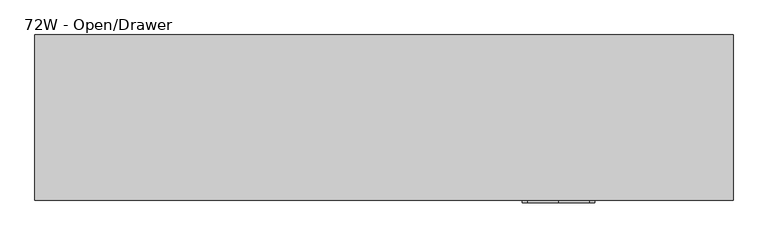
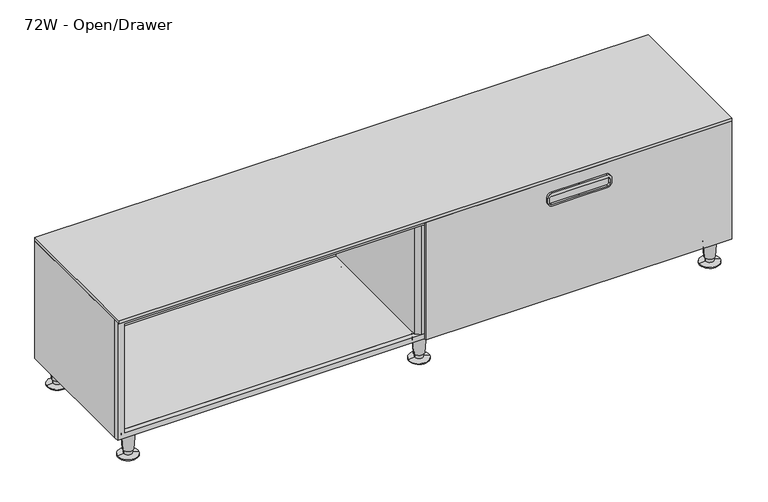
"""IFC4 building model written with IfcOpenShell, lengths in millimetres: furniture geometry, Steelcase - C Scape - Low Storage - 1 High - 60W and 72W : 72W - Open/Drawer."""

import ifcopenshell
import ifcopenshell.guid

model = None  # the IFC model being written
_history = None  # IfcOwnerHistory: only IFC2X3 demands one
_inside = {}  # id of a spatial element -> (the spatial element, [elements in it])
_under = {}  # id of a project, library or spatial element -> (it, [spatial elements below it])
_declared = {}  # id of a project -> (the project, [libraries it declares])
_typed = {}  # id of a type object -> (the type object, [elements of that type])
_made_of = {}  # id of a material, layer set ... -> (it, [elements and type objects made of it])


def new_model(schema):
    """Start an empty IFC model of exactly this schema.

    Asked for "IFC4X3", IfcOpenShell would pick the latest addendum, in which some entities
    have other attributes; the version numbers below select the first issue.
    IFC2X3 requires an IfcOwnerHistory on every rooted entity: one is made here for all.
    """
    global model, _history
    if schema == "IFC4X3":
        model = ifcopenshell.file(schema_version=(4, 3, 0, 0))
    else:
        model = ifcopenshell.file(schema=schema)
    _inside.clear()
    _under.clear()
    _declared.clear()
    _typed.clear()
    _made_of.clear()
    _history = None
    if model.schema == "IFC2X3":
        org = make("IfcOrganization", Name="unknown")
        user = make(
            "IfcPersonAndOrganization",
            ThePerson=make("IfcPerson", FamilyName="unknown"),
            TheOrganization=org,
        )
        app = make(
            "IfcApplication",
            ApplicationDeveloper=org,
            Version="unknown",
            ApplicationFullName="unknown",
            ApplicationIdentifier="unknown",
        )
        _history = make(
            "IfcOwnerHistory",
            OwningUser=user,
            OwningApplication=app,
            ChangeAction="ADDED",
            CreationDate=0,
        )
    return model


def make(cls, **values):
    """One entity of the class cls with the attributes given. An attribute that is None is left unset."""
    return model.create_entity(
        cls, **{name: value for name, value in values.items() if value is not None}
    )


def rooted(cls, **values):
    """An entity with a GlobalId (a new one), such as an element, a storey or a relation."""
    return make(cls, GlobalId=ifcopenshell.guid.new(), OwnerHistory=_history, **values)


def si_unit(unit_type, name, prefix=None):
    """IfcSIUnit, for example si_unit("LENGTHUNIT", "METRE", prefix="MILLI")."""
    return make("IfcSIUnit", UnitType=unit_type, Prefix=prefix, Name=name)


def assignment(units):
    """IfcUnitAssignment: the units of a project."""
    return None if units is None else make("IfcUnitAssignment", Units=units)


def point(xyz):
    """IfcCartesianPoint."""
    return None if xyz is None else make("IfcCartesianPoint", Coordinates=xyz)


def direction(xyz):
    """IfcDirection."""
    return None if xyz is None else make("IfcDirection", DirectionRatios=xyz)


def frame(location, z_axis=None, x_axis=None):
    """IfcAxis2Placement3D, a coordinate frame: its origin and axes. An axis left out is left unset."""
    return make(
        "IfcAxis2Placement3D",
        Location=point(location),
        Axis=direction(z_axis),
        RefDirection=direction(x_axis),
    )


def frame_2d(location, x_axis=None):
    """IfcAxis2Placement2D, a coordinate frame in the plane: its origin and x axis."""
    return make(
        "IfcAxis2Placement2D", Location=point(location), RefDirection=direction(x_axis)
    )


def origin():
    """The frame at (0, 0, 0) with its axes left unset."""
    return frame((0.0, 0.0, 0.0))


def place(relative_to, where):
    """IfcLocalPlacement: puts the frame where relative to a parent placement (None: the world)."""
    return make(
        "IfcLocalPlacement", PlacementRelTo=relative_to, RelativePlacement=where
    )


def context(
    kind, dimensions, precision=None, world=None, true_north=None, identifier=None
):
    """IfcGeometricRepresentationContext, for example the 3D "Model" context."""
    return make(
        "IfcGeometricRepresentationContext",
        ContextIdentifier=identifier,
        ContextType=kind,
        CoordinateSpaceDimension=dimensions,
        Precision=precision,
        WorldCoordinateSystem=world,
        TrueNorth=true_north,
    )


def project(units=None, contexts=None):
    """IfcProject with its units and contexts."""
    return rooted(
        "IfcProject",
        Name="project",
        RepresentationContexts=contexts,
        UnitsInContext=assignment(units),
    )


def spatial(cls, under=None, at=None, **own):
    """A site, building, storey or space (cls), placed at a placement, below another one or the project."""
    s = rooted(cls, ObjectPlacement=at, **own)
    if under is not None:
        _under.setdefault(under.id(), (under, []))[1].append(s)
    return s


def polyline(points):
    """IfcPolyline through the points."""
    return make("IfcPolyline", Points=[point(p) for p in points])


def circle_curve(where, radius):
    """IfcCircle in the frame where."""
    return make("IfcCircle", Position=where, Radius=radius)


def trimmed(basis, trim1, trim2, sense, master):
    """IfcTrimmedCurve: the piece of a basis curve between two trims."""
    return make(
        "IfcTrimmedCurve",
        BasisCurve=basis,
        Trim1=trim1,
        Trim2=trim2,
        SenseAgreement=sense,
        MasterRepresentation=master,
    )


def segment(curve, same_sense, transition):
    """IfcCompositeCurveSegment."""
    return make(
        "IfcCompositeCurveSegment",
        Transition=transition,
        SameSense=same_sense,
        ParentCurve=curve,
    )


def composite_curve(segments, self_intersect=None):
    """IfcCompositeCurve: segments joined end to end."""
    return make("IfcCompositeCurve", Segments=segments, SelfIntersect=self_intersect)


def outline(outer, holes=None, kind="AREA"):
    """IfcArbitraryClosedProfileDef: a profile drawn as a closed curve; with holes, ...WithVoids."""
    if holes is None:
        return make("IfcArbitraryClosedProfileDef", ProfileType=kind, OuterCurve=outer)
    return make(
        "IfcArbitraryProfileDefWithVoids",
        ProfileType=kind,
        OuterCurve=outer,
        InnerCurves=holes,
    )


def extrude(swept, where, along, depth):
    """IfcExtrudedAreaSolid: the profile swept, set in the frame where, extruded along a direction by depth."""
    return make(
        "IfcExtrudedAreaSolid",
        SweptArea=swept,
        Position=where,
        ExtrudedDirection=direction(along),
        Depth=depth,
    )


def faces_of(points, faces, orient=None, outer=None):
    """IfcFace entities. A face is a list of loops; a loop is a list of indices into points, from 0.

    orient and outer hold one flag for each loop. By default every Orientation is true, the
    first loop of a face is its IfcFaceOuterBound and the others are IfcFaceBound.
    """
    made = []
    for i, loops in enumerate(faces):
        bounds = []
        for j, loop in enumerate(loops):
            is_outer = j == 0 if outer is None else outer[i][j]
            bounds.append(
                make(
                    "IfcFaceOuterBound" if is_outer else "IfcFaceBound",
                    Bound=make("IfcPolyLoop", Polygon=[points[k] for k in loop]),
                    Orientation=True if orient is None else orient[i][j],
                )
            )
        made.append(make("IfcFace", Bounds=bounds))
    return made


def faceted_brep(points, faces, orient=None, outer=None, voids=None):
    """IfcFacetedBrep: a solid bounded by flat faces; with voids (closed shells), ...WithVoids."""
    shared = [point(p) for p in points]
    hull = make("IfcClosedShell", CfsFaces=faces_of(shared, faces, orient, outer))
    if voids is None:
        return make("IfcFacetedBrep", Outer=hull)
    return make(
        "IfcFacetedBrepWithVoids",
        Outer=hull,
        Voids=[
            make(cls, CfsFaces=faces_of(shared, fs, o, b)) for cls, fs, o, b in voids
        ],
    )


def shape(context_of_items, identifier, shape_type, items):
    """IfcShapeRepresentation: the items that make up one representation, for example the "Body"."""
    return make(
        "IfcShapeRepresentation",
        ContextOfItems=context_of_items,
        RepresentationIdentifier=identifier,
        RepresentationType=shape_type,
        Items=items,
    )


def source(mapping_origin, context_of_items, identifier, shape_type, items):
    """IfcRepresentationMap: a shape defined once, which mapped items show again and again."""
    return make(
        "IfcRepresentationMap",
        MappingOrigin=mapping_origin,
        MappedRepresentation=shape(context_of_items, identifier, shape_type, items),
    )


def transform(
    local_origin,
    x_axis=None,
    y_axis=None,
    z_axis=None,
    scale=None,
    scale2=None,
    scale3=None,
    uniform=True,
):
    """IfcCartesianTransformationOperator3D, or its non-uniform kind. x_axis, y_axis, z_axis: its Axis1, 2, 3."""
    if uniform:
        return make(
            "IfcCartesianTransformationOperator3D",
            Axis1=direction(x_axis),
            Axis2=direction(y_axis),
            LocalOrigin=point(local_origin),
            Scale=scale,
            Axis3=direction(z_axis),
        )
    return make(
        "IfcCartesianTransformationOperator3DnonUniform",
        Axis1=direction(x_axis),
        Axis2=direction(y_axis),
        LocalOrigin=point(local_origin),
        Scale=scale,
        Axis3=direction(z_axis),
        Scale2=scale2,
        Scale3=scale3,
    )


def mapped(mapping_source, mapping_target):
    """IfcMappedItem: shows the shape of a source again, moved by a transform."""
    return make(
        "IfcMappedItem", MappingSource=mapping_source, MappingTarget=mapping_target
    )


def made_of(thing, what):
    """Note that an element or type object is made of a material, layer set ...; save() writes the relation."""
    if what is not None:
        _made_of.setdefault(what.id(), (what, []))[1].append(thing)
    return thing


def element(
    cls,
    number,
    at=None,
    inside=None,
    cuts=None,
    type_object=None,
    material=None,
    context=None,
    identifier="Body",
    shape_type=None,
    held_by="IfcProductDefinitionShape",
    body=None,
    shapes=None,
    **own,
):
    """One element of the class cls, such as IfcWall. Its Tag is "e" and its number.

    at: its placement. inside: the storey or other place that contains it. cuts: it is an
    opening in that element (IfcRelVoidsElement). A single representation is given by context,
    identifier, shape_type and body (its items); several are given by shapes. held_by: the class
    of the entity that holds the representations. save() writes the other relations.
    """
    e = rooted(cls, Tag="e%d" % number, ObjectPlacement=at, **own)
    if body is not None:
        shapes = [shape(context, identifier, shape_type, body)]
    if shapes is not None:
        e.Representation = make(held_by, Representations=shapes)
    if inside is not None:
        _inside.setdefault(inside.id(), (inside, []))[1].append(e)
    if cuts is not None:
        rooted(
            "IfcRelVoidsElement", RelatingBuildingElement=cuts, RelatedOpeningElement=e
        )
    if type_object is not None:
        _typed.setdefault(type_object.id(), (type_object, []))[1].append(e)
    return made_of(e, material)


def aggregate(whole, parts):
    """IfcRelAggregates: a whole, such as a stair, and the parts it consists of."""
    return rooted("IfcRelAggregates", RelatingObject=whole, RelatedObjects=parts)


def save(model, path):
    """Write the relations noted so far, then the file.

    IfcRelAggregates (storeys below a building ...), IfcRelContainedInSpatialStructure (elements
    in a storey), IfcRelDefinesByType, IfcRelAssociatesMaterial and IfcRelDeclares: one each for
    every whole, place, type object, material and project.
    """
    for whole, parts in _under.values():
        aggregate(whole, parts)
    for where, things in _inside.values():
        rooted(
            "IfcRelContainedInSpatialStructure",
            RelatedElements=things,
            RelatingStructure=where,
        )
    for kind, things in _typed.values():
        rooted("IfcRelDefinesByType", RelatedObjects=things, RelatingType=kind)
    for what, things in _made_of.values():
        rooted("IfcRelAssociatesMaterial", RelatedObjects=things, RelatingMaterial=what)
    for by, libraries in _declared.values():
        rooted("IfcRelDeclares", RelatingContext=by, RelatedDefinitions=libraries)
    model.write(path)


def plane_surface(at):
    """IfcPlane: the flat surface through the origin of the frame at, square to its z axis."""
    return make("IfcPlane", Position=at)


def cylinder_surface(at, radius):
    """IfcCylindricalSurface: all points at the distance radius from the z axis of the frame at."""
    return make("IfcCylindricalSurface", Position=at, Radius=radius)


def revolved_surface(curve, axis_point, axis_direction):
    """IfcSurfaceOfRevolution: the curve turned about the line through axis_point along axis_direction."""
    return make(
        "IfcSurfaceOfRevolution",
        SweptCurve=make("IfcArbitraryOpenProfileDef", ProfileType="CURVE", Curve=curve),
        AxisPosition=make("IfcAxis1Placement", Location=point(axis_point), Axis=direction(axis_direction)),
    )


def advanced_brep(points, edges, surfaces, faces):
    """IfcAdvancedBrep: a solid bounded by faces that lie on surfaces and meet in shared edges.

    An edge is (start, end): straight between two places in points (the first is 0);
    or (start, end, curve); or (start, end, curve, False) where it runs against its curve.
    A face is (place in surfaces, loops), or (place, loops, False) where it looks against
    its surface's normal. A loop lists edges by number (the first is 1), with a minus sign
    where the edge is run from its end to its start. The first loop is the outer one.
    """
    corners = [point(p) for p in points]
    vertices = [make("IfcVertexPoint", VertexGeometry=c) for c in corners]
    made = []
    for start, end, *more in edges:
        made.append(
            make(
                "IfcEdgeCurve",
                EdgeStart=vertices[start],
                EdgeEnd=vertices[end],
                EdgeGeometry=more[0] if more else make("IfcPolyline", Points=[corners[start], corners[end]]),
                SameSense=more[1] if len(more) > 1 else True,
            )
        )
    hull = []
    for where, loops, *sense in faces:
        bounds = []
        for j, loop in enumerate(loops):
            ring = [make("IfcOrientedEdge", EdgeElement=made[abs(k) - 1], Orientation=k > 0) for k in loop]
            bounds.append(
                make(
                    "IfcFaceOuterBound" if j == 0 else "IfcFaceBound",
                    Bound=make("IfcEdgeLoop", EdgeList=ring),
                    Orientation=True,
                )
            )
        hull.append(make("IfcAdvancedFace", Bounds=bounds, FaceSurface=surfaces[where], SameSense=sense[0] if sense else True))
    return make("IfcAdvancedBrep", Outer=make("IfcClosedShell", CfsFaces=hull))


def furniture_72w_open_drawer_b8831ac9(model_context):
    return source(origin(), model_context, "Body", "SolidModel", [
        extrude(outline(polyline([(447.0400097, 1522.73), (447.0400097, -305.435), (76.2, -305.435), (76.2, 1522.73), (447.0400097, 1522.73)]), holes=[polyline([(436.118, 1501.3917676), (92.7100024, 1501.3917676), (92.7100024, -283.4630912), (436.118, -283.4630912), (436.118, 1501.3917676)])]), frame((0.0, -426.7186111, 0.0), z_axis=(0.0, 1.0, 0.0), x_axis=(0.0, 0.0, 1.0)), (0.0, 0.0, 1.0), 14.3975487),
        faceted_brep([(-283.4630912, -412.3210624, 92.7100024), (586.4224874, -412.3210624, 92.7100024), (586.4224874, -9.525, 92.7100024), (-283.4630912, -9.525, 92.7100024), (631.5075126, -412.3210624, 92.7100024), (1501.3917676, -412.3210624, 92.7100024), (1501.3917676, -9.525, 92.7100024), (631.5075126, -9.525, 92.7100024), (-305.435, 0.0, 76.2), (1523.365, 0.0, 76.2), (1523.365, -412.3210624, 76.2), (-305.435, -412.3210624, 76.2), (-305.435, -412.3210624, 447.0400097), (-305.435, 0.0, 447.0400097), (1523.365, -412.3210624, 447.0400097), (1501.3917676, -412.3210624, 447.0400097), (-283.4630912, -412.3210624, 447.0400097), (1523.365, 0.0, 447.0400097), (-283.4630912, -9.525, 447.0400097), (586.4224874, -9.525, 447.0400097), (586.4224874, -415.2912402, 447.0400097), (600.0410976, -426.7186111, 447.0400097), (617.8889024, -426.7186111, 447.0400097), (631.5075126, -415.2912402, 447.0400097), (631.5075126, -9.525, 447.0400097), (1501.3917676, -9.525, 447.0400097), (586.4224874, -415.2912402, 92.7100024), (600.0410976, -426.7186111, 92.7100024), (617.8889024, -426.7186111, 92.7100024), (631.5075126, -415.2912402, 92.7100024)], [[[0, 1, 2, 3]], [[4, 5, 6, 7]], [[8, 9, 10, 11]], [[8, 11, 12, 13]], [[12, 11, 10, 14, 15, 5, 4, 1, 0, 16]], [[14, 10, 9, 17]], [[17, 9, 8, 13]], [[13, 12, 16, 18, 19, 20, 21, 22, 23, 24, 25, 15, 14, 17]], [[18, 16, 0, 3]], [[19, 18, 3, 2]], [[20, 19, 2, 1, 26]], [[21, 20, 26, 27]], [[23, 22, 28, 29]], [[24, 23, 29, 4, 7]], [[25, 24, 7, 6]], [[15, 25, 6, 5]], [[29, 28, 27, 26, 1, 4]], [[22, 21, 27, 28]]]),
        advanced_brep(
        [(579.8539515, -29.9489775, 0.0), (638.0760485, -38.8569507, 0.0), (608.965, -34.4029641, 0.0), (579.8539515, -29.9489775, 2.5119506), (638.0760485, -38.8569507, 2.5119506), (597.202835, -32.6033544, 5.7545598), (620.727165, -36.2025738, 5.7545598), (596.5140655, -32.4979728, 19.05), (621.4159345, -36.3079555, 19.05), (594.0844786, -32.1262463, 19.05), (623.8455214, -36.6796819, 19.05), (590.1341305, -31.5218435, 76.2), (627.7958695, -37.2840847, 76.2), (608.965, -34.4029641, 76.2)],
        [
            (0, 1, circle_curve(frame((608.965, -34.4029641, 0.0), z_axis=(0.0, 0.0, -1.0), x_axis=(0.0, -1.0, 0.0)), 29.4498071)),
            (1, 2),
            (2, 0),
            (1, 0, circle_curve(frame((608.965, -34.4029641, 0.0), z_axis=(0.0, 0.0, -1.0), x_axis=(0.0, -1.0, 0.0)), 29.4498071)),
            (3, 4, circle_curve(frame((608.965, -34.4029641, 2.5119506), z_axis=(0.0, 0.0, -1.0), x_axis=(0.0, -1.0, 0.0)), 29.4498071)),
            (4, 1),
            (0, 3),
            (4, 3, circle_curve(frame((608.965, -34.4029641, 2.5119506), z_axis=(0.0, 0.0, -1.0), x_axis=(0.0, -1.0, 0.0)), 29.4498071)),
            (5, 6, circle_curve(frame((608.965, -34.4029641, 5.7545598), z_axis=(0.0, 0.0, -1.0), x_axis=(0.0, -1.0, 0.0)), 11.8990387)),
            (6, 4),
            (3, 5),
            (6, 5, circle_curve(frame((608.965, -34.4029641, 5.7545598), z_axis=(0.0, 0.0, -1.0), x_axis=(0.0, -1.0, 0.0)), 11.8990387)),
            (7, 8, circle_curve(frame((608.965, -34.4029641, 19.05), z_axis=(0.0, 0.0, -1.0), x_axis=(0.0, -1.0, 0.0)), 12.5958232)),
            (8, 6),
            (5, 7),
            (8, 7, circle_curve(frame((608.965, -34.4029641, 19.05), z_axis=(0.0, 0.0, -1.0), x_axis=(0.0, -1.0, 0.0)), 12.5958232)),
            (9, 10, circle_curve(frame((608.965, -34.4029641, 19.05), z_axis=(0.0, 0.0, -1.0), x_axis=(0.0, -1.0, 0.0)), 15.0536827)),
            (10, 8),
            (7, 9),
            (10, 9, circle_curve(frame((608.965, -34.4029641, 19.05), z_axis=(0.0, 0.0, -1.0), x_axis=(0.0, -1.0, 0.0)), 15.0536827)),
            (11, 12, circle_curve(frame((608.965, -34.4029641, 76.2), z_axis=(0.0, 0.0, -1.0), x_axis=(0.0, -1.0, 0.0)), 19.05)),
            (12, 10),
            (9, 11),
            (12, 11, circle_curve(frame((608.965, -34.4029641, 76.2), z_axis=(0.0, 0.0, -1.0), x_axis=(0.0, -1.0, 0.0)), 19.05)),
            (13, 12),
            (11, 13),
        ],
        [
            plane_surface(frame((608.965, -34.4029641, 0.0), z_axis=(0.0, 0.0, -1.0), x_axis=(0.0, -1.0, 0.0))),
            cylinder_surface(frame((608.965, -34.4029641, 25.4), z_axis=(0.0, 0.0, 1.0), x_axis=(0.0, -1.0, 0.0)), 29.4498071),
            revolved_surface(polyline([(608.965, -63.8527712, 2.5119506), (608.965, -46.3020028, 5.7545598)]), (608.965, -34.4029641, 25.4), (0.0, 0.0, 1.0)),
            revolved_surface(polyline([(608.965, -46.3020028, 5.7545598), (608.965, -46.9987873, 19.05)]), (608.965, -34.4029641, 25.4), (0.0, 0.0, 1.0)),
            plane_surface(frame((608.965, -34.4029641, 19.05), z_axis=(0.0, 0.0, -1.0), x_axis=(0.0, -1.0, 0.0))),
            revolved_surface(polyline([(608.965, -49.4566468, 19.05), (608.965, -53.4529641, 76.2)]), (608.965, -34.4029641, 25.4), (0.0, 0.0, 1.0)),
            plane_surface(frame((608.965, -34.4029641, 76.2), z_axis=(0.0, 0.0, 1.0), x_axis=(0.0, -1.0, 0.0))),
        ],
        [
            (0, [[1, 2, 3]]),
            (0, [[4, -3, -2]]),
            (1, [[5, 6, -1, 7]]),
            (1, [[8, -7, -4, -6]]),
            (2, [[9, 10, -5, 11]]),
            (2, [[12, -11, -8, -10]]),
            (3, [[13, 14, -9, 15]]),
            (3, [[16, -15, -12, -14]]),
            (4, [[17, 18, -13, 19]]),
            (4, [[20, -19, -16, -18]]),
            (5, [[21, 22, -17, 23]]),
            (5, [[24, -23, -20, -22]]),
            (6, [[25, -21, 26]]),
            (6, [[-26, -24, -25]]),
        ],
    ),
        advanced_brep(
        [(579.8539515, -395.5974102, 0.0), (638.0760485, -404.5053834, 0.0), (608.965, -400.0513968, 0.0), (579.8539515, -395.5974102, 2.5119506), (638.0760485, -404.5053834, 2.5119506), (597.202835, -398.2517871, 5.7545598), (620.727165, -401.8510065, 5.7545598), (596.5140655, -398.1464055, 19.05), (621.4159345, -401.9563882, 19.05), (594.0844786, -397.774679, 19.05), (623.8455214, -402.3281146, 19.05), (590.1341305, -397.1702762, 76.2), (627.7958695, -402.9325174, 76.2), (608.965, -400.0513968, 76.2)],
        [
            (0, 1, circle_curve(frame((608.965, -400.0513968, 0.0), z_axis=(0.0, 0.0, -1.0), x_axis=(0.0, -1.0, 0.0)), 29.4498071)),
            (1, 2),
            (2, 0),
            (1, 0, circle_curve(frame((608.965, -400.0513968, 0.0), z_axis=(0.0, 0.0, -1.0), x_axis=(0.0, -1.0, 0.0)), 29.4498071)),
            (3, 4, circle_curve(frame((608.965, -400.0513968, 2.5119506), z_axis=(0.0, 0.0, -1.0), x_axis=(0.0, -1.0, 0.0)), 29.4498071)),
            (4, 1),
            (0, 3),
            (4, 3, circle_curve(frame((608.965, -400.0513968, 2.5119506), z_axis=(0.0, 0.0, -1.0), x_axis=(0.0, -1.0, 0.0)), 29.4498071)),
            (5, 6, circle_curve(frame((608.965, -400.0513968, 5.7545598), z_axis=(0.0, 0.0, -1.0), x_axis=(0.0, -1.0, 0.0)), 11.8990387)),
            (6, 4),
            (3, 5),
            (6, 5, circle_curve(frame((608.965, -400.0513968, 5.7545598), z_axis=(0.0, 0.0, -1.0), x_axis=(0.0, -1.0, 0.0)), 11.8990387)),
            (7, 8, circle_curve(frame((608.965, -400.0513968, 19.05), z_axis=(0.0, 0.0, -1.0), x_axis=(0.0, -1.0, 0.0)), 12.5958232)),
            (8, 6),
            (5, 7),
            (8, 7, circle_curve(frame((608.965, -400.0513968, 19.05), z_axis=(0.0, 0.0, -1.0), x_axis=(0.0, -1.0, 0.0)), 12.5958232)),
            (9, 10, circle_curve(frame((608.965, -400.0513968, 19.05), z_axis=(0.0, 0.0, -1.0), x_axis=(0.0, -1.0, 0.0)), 15.0536827)),
            (10, 8),
            (7, 9),
            (10, 9, circle_curve(frame((608.965, -400.0513968, 19.05), z_axis=(0.0, 0.0, -1.0), x_axis=(0.0, -1.0, 0.0)), 15.0536827)),
            (11, 12, circle_curve(frame((608.965, -400.0513968, 76.2), z_axis=(0.0, 0.0, -1.0), x_axis=(0.0, -1.0, 0.0)), 19.05)),
            (12, 10),
            (9, 11),
            (12, 11, circle_curve(frame((608.965, -400.0513968, 76.2), z_axis=(0.0, 0.0, -1.0), x_axis=(0.0, -1.0, 0.0)), 19.05)),
            (13, 12),
            (11, 13),
        ],
        [
            plane_surface(frame((608.965, -400.0513968, 0.0), z_axis=(0.0, 0.0, -1.0), x_axis=(0.0, -1.0, 0.0))),
            cylinder_surface(frame((608.965, -400.0513968, 25.4), z_axis=(0.0, 0.0, 1.0), x_axis=(0.0, -1.0, 0.0)), 29.4498071),
            revolved_surface(polyline([(608.965, -429.5012039, 2.5119506), (608.965, -411.9504355, 5.7545598)]), (608.965, -400.0513968, 25.4), (0.0, 0.0, 1.0)),
            revolved_surface(polyline([(608.965, -411.9504355, 5.7545598), (608.965, -412.64722, 19.05)]), (608.965, -400.0513968, 25.4), (0.0, 0.0, 1.0)),
            plane_surface(frame((608.965, -400.0513968, 19.05), z_axis=(0.0, 0.0, -1.0), x_axis=(0.0, -1.0, 0.0))),
            revolved_surface(polyline([(608.965, -415.1050795, 19.05), (608.965, -419.1013968, 76.2)]), (608.965, -400.0513968, 25.4), (0.0, 0.0, 1.0)),
            plane_surface(frame((608.965, -400.0513968, 76.2), z_axis=(0.0, 0.0, 1.0), x_axis=(0.0, -1.0, 0.0))),
        ],
        [
            (0, [[1, 2, 3]]),
            (0, [[4, -3, -2]]),
            (1, [[5, 6, -1, 7]]),
            (1, [[8, -7, -4, -6]]),
            (2, [[9, 10, -5, 11]]),
            (2, [[12, -11, -8, -10]]),
            (3, [[13, 14, -9, 15]]),
            (3, [[16, -15, -12, -14]]),
            (4, [[17, 18, -13, 19]]),
            (4, [[20, -19, -16, -18]]),
            (5, [[21, 22, -17, 23]]),
            (5, [[24, -23, -20, -22]]),
            (6, [[25, -21, 26]]),
            (6, [[-26, -24, -25]]),
        ],
    ),
        extrude(outline(composite_curve([segment(trimmed(circle_curve(frame_2d((400.0499879, 983.9320892)), 12.7), [point((412.7499879, 983.9320892))], [point((400.0499879, 971.2320892))], False, "CARTESIAN"), True, "CONTINUOUS"), segment(polyline([(400.0499879, 971.2320892), (385.445017, 971.2320892)]), True, "CONTINUOUS"), segment(trimmed(circle_curve(frame_2d((385.445017, 983.9320892)), 12.7), [point((385.445017, 971.2320892))], [point((372.745017, 983.9320892))], False, "CARTESIAN"), True, "CONTINUOUS"), segment(polyline([(372.745017, 983.9320892), (372.745017, 1066.164845), (372.745017, 1148.3976007)]), True, "CONTINUOUS"), segment(trimmed(circle_curve(frame_2d((385.445017, 1148.3976007)), 12.7), [point((372.745017, 1148.3976007))], [point((385.445017, 1161.0976007))], False, "CARTESIAN"), True, "CONTINUOUS"), segment(polyline([(385.445017, 1161.0976007), (400.0499879, 1161.0976007)]), True, "CONTINUOUS"), segment(trimmed(circle_curve(frame_2d((400.0499879, 1148.3976007)), 12.7), [point((400.0499879, 1161.0976007))], [point((412.7499879, 1148.3976007))], False, "CARTESIAN"), True, "CONTINUOUS"), segment(polyline([(412.7499879, 1148.3976007), (412.7499879, 1066.164845), (412.7499879, 983.9320892)]), True, "CONTINUOUS")], self_intersect=False), holes=[composite_curve([segment(trimmed(circle_curve(frame_2d((396.6210063, 982.4097015)), 6.35), [point((396.6210063, 976.0597015))], [point((402.9710063, 982.4097015))], True, "CARTESIAN"), True, "CONTINUOUS"), segment(polyline([(402.9710063, 982.4097015), (402.9710063, 1066.164845), (402.9710063, 1149.9199884)]), True, "CONTINUOUS"), segment(trimmed(circle_curve(frame_2d((396.6210063, 1149.9199884)), 6.35), [point((402.9710063, 1149.9199884))], [point((396.6210063, 1156.2699884))], True, "CARTESIAN"), True, "CONTINUOUS"), segment(polyline([(396.6210063, 1156.2699884), (383.9209942, 1156.2699884)]), True, "CONTINUOUS"), segment(trimmed(circle_curve(frame_2d((383.9209942, 1149.9199884)), 6.35), [point((383.9209942, 1156.2699884))], [point((377.5709942, 1149.9199884))], True, "CARTESIAN"), True, "CONTINUOUS"), segment(polyline([(377.5709942, 1149.9199884), (377.5709942, 1066.164845), (377.5709942, 982.4097015)]), True, "CONTINUOUS"), segment(trimmed(circle_curve(frame_2d((383.9209942, 982.4097015)), 6.35), [point((377.5709942, 982.4097015))], [point((383.9209942, 976.0597015))], True, "CARTESIAN"), True, "CONTINUOUS"), segment(polyline([(383.9209942, 976.0597015), (396.6210063, 976.0597015)]), True, "CONTINUOUS")], self_intersect=False)]), frame((0.0, -439.42, 0.0), z_axis=(0.0, 1.0, 0.0), x_axis=(0.0, 0.0, 1.0)), (0.0, 0.0, 1.0), 6.35),
        advanced_brep(
        [(1446.9075389, -29.9489775, 0.0), (1505.1296359, -38.8569507, 0.0), (1476.0185874, -34.4029641, 0.0), (1446.9075389, -29.9489775, 2.5119506), (1505.1296359, -38.8569507, 2.5119506), (1464.2564224, -32.6033544, 5.7545598), (1487.7807524, -36.2025738, 5.7545598), (1463.5676529, -32.4979728, 19.05), (1488.4695219, -36.3079555, 19.05), (1461.1380659, -32.1262463, 19.05), (1490.8991088, -36.6796819, 19.05), (1457.1877179, -31.5218435, 76.2), (1494.8494568, -37.2840847, 76.2), (1476.0185874, -34.4029641, 76.2)],
        [
            (0, 1, circle_curve(frame((1476.0185874, -34.4029641, 0.0), z_axis=(0.0, 0.0, -1.0), x_axis=(0.0, -1.0, 0.0)), 29.4498071)),
            (1, 2),
            (2, 0),
            (1, 0, circle_curve(frame((1476.0185874, -34.4029641, 0.0), z_axis=(0.0, 0.0, -1.0), x_axis=(0.0, -1.0, 0.0)), 29.4498071)),
            (3, 4, circle_curve(frame((1476.0185874, -34.4029641, 2.5119506), z_axis=(0.0, 0.0, -1.0), x_axis=(0.0, -1.0, 0.0)), 29.4498071)),
            (4, 1),
            (0, 3),
            (4, 3, circle_curve(frame((1476.0185874, -34.4029641, 2.5119506), z_axis=(0.0, 0.0, -1.0), x_axis=(0.0, -1.0, 0.0)), 29.4498071)),
            (5, 6, circle_curve(frame((1476.0185874, -34.4029641, 5.7545598), z_axis=(0.0, 0.0, -1.0), x_axis=(0.0, -1.0, 0.0)), 11.8990387)),
            (6, 4),
            (3, 5),
            (6, 5, circle_curve(frame((1476.0185874, -34.4029641, 5.7545598), z_axis=(0.0, 0.0, -1.0), x_axis=(0.0, -1.0, 0.0)), 11.8990387)),
            (7, 8, circle_curve(frame((1476.0185874, -34.4029641, 19.05), z_axis=(0.0, 0.0, -1.0), x_axis=(0.0, -1.0, 0.0)), 12.5958232)),
            (8, 6),
            (5, 7),
            (8, 7, circle_curve(frame((1476.0185874, -34.4029641, 19.05), z_axis=(0.0, 0.0, -1.0), x_axis=(0.0, -1.0, 0.0)), 12.5958232)),
            (9, 10, circle_curve(frame((1476.0185874, -34.4029641, 19.05), z_axis=(0.0, 0.0, -1.0), x_axis=(0.0, -1.0, 0.0)), 15.0536827)),
            (10, 8),
            (7, 9),
            (10, 9, circle_curve(frame((1476.0185874, -34.4029641, 19.05), z_axis=(0.0, 0.0, -1.0), x_axis=(0.0, -1.0, 0.0)), 15.0536827)),
            (11, 12, circle_curve(frame((1476.0185874, -34.4029641, 76.2), z_axis=(0.0, 0.0, -1.0), x_axis=(0.0, -1.0, 0.0)), 19.05)),
            (12, 10),
            (9, 11),
            (12, 11, circle_curve(frame((1476.0185874, -34.4029641, 76.2), z_axis=(0.0, 0.0, -1.0), x_axis=(0.0, -1.0, 0.0)), 19.05)),
            (13, 12),
            (11, 13),
        ],
        [
            plane_surface(frame((1476.0185874, -34.4029641, 0.0), z_axis=(0.0, 0.0, -1.0), x_axis=(0.0, -1.0, 0.0))),
            cylinder_surface(frame((1476.0185874, -34.4029641, 25.4), z_axis=(0.0, 0.0, 1.0), x_axis=(0.0, -1.0, 0.0)), 29.4498071),
            revolved_surface(polyline([(1476.0185874, -63.8527712, 2.5119506), (1476.0185874, -46.3020028, 5.7545598)]), (1476.0185874, -34.4029641, 25.4), (0.0, 0.0, 1.0)),
            revolved_surface(polyline([(1476.0185874, -46.3020028, 5.7545598), (1476.0185874, -46.9987873, 19.05)]), (1476.0185874, -34.4029641, 25.4), (0.0, 0.0, 1.0)),
            plane_surface(frame((1476.0185874, -34.4029641, 19.05), z_axis=(0.0, 0.0, -1.0), x_axis=(0.0, -1.0, 0.0))),
            revolved_surface(polyline([(1476.0185874, -49.4566468, 19.05), (1476.0185874, -53.4529641, 76.2)]), (1476.0185874, -34.4029641, 25.4), (0.0, 0.0, 1.0)),
            plane_surface(frame((1476.0185874, -34.4029641, 76.2), z_axis=(0.0, 0.0, 1.0), x_axis=(0.0, -1.0, 0.0))),
        ],
        [
            (0, [[1, 2, 3]]),
            (0, [[4, -3, -2]]),
            (1, [[5, 6, -1, 7]]),
            (1, [[8, -7, -4, -6]]),
            (2, [[9, 10, -5, 11]]),
            (2, [[12, -11, -8, -10]]),
            (3, [[13, 14, -9, 15]]),
            (3, [[16, -15, -12, -14]]),
            (4, [[17, 18, -13, 19]]),
            (4, [[20, -19, -16, -18]]),
            (5, [[21, 22, -17, 23]]),
            (5, [[24, -23, -20, -22]]),
            (6, [[25, -21, 26]]),
            (6, [[-26, -24, -25]]),
        ],
    ),
        advanced_brep(
        [(1446.9075389, -395.5974102, 0.0), (1505.1296359, -404.5053834, 0.0), (1476.0185874, -400.0513968, 0.0), (1446.9075389, -395.5974102, 2.5119506), (1505.1296359, -404.5053834, 2.5119506), (1464.2564224, -398.2517871, 5.7545598), (1487.7807524, -401.8510065, 5.7545598), (1463.5676529, -398.1464055, 19.05), (1488.4695219, -401.9563882, 19.05), (1461.1380659, -397.774679, 19.05), (1490.8991088, -402.3281146, 19.05), (1457.1877179, -397.1702762, 76.2), (1494.8494568, -402.9325174, 76.2), (1476.0185874, -400.0513968, 76.2)],
        [
            (0, 1, circle_curve(frame((1476.0185874, -400.0513968, 0.0), z_axis=(0.0, 0.0, -1.0), x_axis=(0.0, -1.0, 0.0)), 29.4498071)),
            (1, 2),
            (2, 0),
            (1, 0, circle_curve(frame((1476.0185874, -400.0513968, 0.0), z_axis=(0.0, 0.0, -1.0), x_axis=(0.0, -1.0, 0.0)), 29.4498071)),
            (3, 4, circle_curve(frame((1476.0185874, -400.0513968, 2.5119506), z_axis=(0.0, 0.0, -1.0), x_axis=(0.0, -1.0, 0.0)), 29.4498071)),
            (4, 1),
            (0, 3),
            (4, 3, circle_curve(frame((1476.0185874, -400.0513968, 2.5119506), z_axis=(0.0, 0.0, -1.0), x_axis=(0.0, -1.0, 0.0)), 29.4498071)),
            (5, 6, circle_curve(frame((1476.0185874, -400.0513968, 5.7545598), z_axis=(0.0, 0.0, -1.0), x_axis=(0.0, -1.0, 0.0)), 11.8990387)),
            (6, 4),
            (3, 5),
            (6, 5, circle_curve(frame((1476.0185874, -400.0513968, 5.7545598), z_axis=(0.0, 0.0, -1.0), x_axis=(0.0, -1.0, 0.0)), 11.8990387)),
            (7, 8, circle_curve(frame((1476.0185874, -400.0513968, 19.05), z_axis=(0.0, 0.0, -1.0), x_axis=(0.0, -1.0, 0.0)), 12.5958232)),
            (8, 6),
            (5, 7),
            (8, 7, circle_curve(frame((1476.0185874, -400.0513968, 19.05), z_axis=(0.0, 0.0, -1.0), x_axis=(0.0, -1.0, 0.0)), 12.5958232)),
            (9, 10, circle_curve(frame((1476.0185874, -400.0513968, 19.05), z_axis=(0.0, 0.0, -1.0), x_axis=(0.0, -1.0, 0.0)), 15.0536827)),
            (10, 8),
            (7, 9),
            (10, 9, circle_curve(frame((1476.0185874, -400.0513968, 19.05), z_axis=(0.0, 0.0, -1.0), x_axis=(0.0, -1.0, 0.0)), 15.0536827)),
            (11, 12, circle_curve(frame((1476.0185874, -400.0513968, 76.2), z_axis=(0.0, 0.0, -1.0), x_axis=(0.0, -1.0, 0.0)), 19.05)),
            (12, 10),
            (9, 11),
            (12, 11, circle_curve(frame((1476.0185874, -400.0513968, 76.2), z_axis=(0.0, 0.0, -1.0), x_axis=(0.0, -1.0, 0.0)), 19.05)),
            (13, 12),
            (11, 13),
        ],
        [
            plane_surface(frame((1476.0185874, -400.0513968, 0.0), z_axis=(0.0, 0.0, -1.0), x_axis=(0.0, -1.0, 0.0))),
            cylinder_surface(frame((1476.0185874, -400.0513968, 25.4), z_axis=(0.0, 0.0, 1.0), x_axis=(0.0, -1.0, 0.0)), 29.4498071),
            revolved_surface(polyline([(1476.0185874, -429.5012039, 2.5119506), (1476.0185874, -411.9504355, 5.7545598)]), (1476.0185874, -400.0513968, 25.4), (0.0, 0.0, 1.0)),
            revolved_surface(polyline([(1476.0185874, -411.9504355, 5.7545598), (1476.0185874, -412.64722, 19.05)]), (1476.0185874, -400.0513968, 25.4), (0.0, 0.0, 1.0)),
            plane_surface(frame((1476.0185874, -400.0513968, 19.05), z_axis=(0.0, 0.0, -1.0), x_axis=(0.0, -1.0, 0.0))),
            revolved_surface(polyline([(1476.0185874, -415.1050795, 19.05), (1476.0185874, -419.1013968, 76.2)]), (1476.0185874, -400.0513968, 25.4), (0.0, 0.0, 1.0)),
            plane_surface(frame((1476.0185874, -400.0513968, 76.2), z_axis=(0.0, 0.0, 1.0), x_axis=(0.0, -1.0, 0.0))),
        ],
        [
            (0, [[1, 2, 3]]),
            (0, [[4, -3, -2]]),
            (1, [[5, 6, -1, 7]]),
            (1, [[8, -7, -4, -6]]),
            (2, [[9, 10, -5, 11]]),
            (2, [[12, -11, -8, -10]]),
            (3, [[13, 14, -9, 15]]),
            (3, [[16, -15, -12, -14]]),
            (4, [[17, 18, -13, 19]]),
            (4, [[20, -19, -16, -18]]),
            (5, [[21, 22, -17, 23]]),
            (5, [[24, -23, -20, -22]]),
            (6, [[25, -21, 26]]),
            (6, [[-26, -24, -25]]),
        ],
    ),
        advanced_brep(
        [(-287.8113721, -395.5974102, 0.0), (-229.5892752, -404.5053834, 0.0), (-258.7003237, -400.0513968, 0.0), (-287.8113721, -395.5974102, 2.5119506), (-229.5892752, -404.5053834, 2.5119506), (-270.4624887, -398.2517871, 5.7545598), (-246.9381586, -401.8510065, 5.7545598), (-271.1512581, -398.1464055, 19.05), (-246.2493892, -401.9563882, 19.05), (-273.5808451, -397.774679, 19.05), (-243.8198022, -402.3281146, 19.05), (-277.5311931, -397.1702762, 76.2), (-239.8694542, -402.9325174, 76.2), (-258.7003237, -400.0513968, 76.2)],
        [
            (0, 1, circle_curve(frame((-258.7003237, -400.0513968, 0.0), z_axis=(0.0, 0.0, -1.0), x_axis=(0.0, -1.0, 0.0)), 29.4498071)),
            (1, 2),
            (2, 0),
            (1, 0, circle_curve(frame((-258.7003237, -400.0513968, 0.0), z_axis=(0.0, 0.0, -1.0), x_axis=(0.0, -1.0, 0.0)), 29.4498071)),
            (3, 4, circle_curve(frame((-258.7003237, -400.0513968, 2.5119506), z_axis=(0.0, 0.0, -1.0), x_axis=(0.0, -1.0, 0.0)), 29.4498071)),
            (4, 1),
            (0, 3),
            (4, 3, circle_curve(frame((-258.7003237, -400.0513968, 2.5119506), z_axis=(0.0, 0.0, -1.0), x_axis=(0.0, -1.0, 0.0)), 29.4498071)),
            (5, 6, circle_curve(frame((-258.7003237, -400.0513968, 5.7545598), z_axis=(0.0, 0.0, -1.0), x_axis=(0.0, -1.0, 0.0)), 11.8990387)),
            (6, 4),
            (3, 5),
            (6, 5, circle_curve(frame((-258.7003237, -400.0513968, 5.7545598), z_axis=(0.0, 0.0, -1.0), x_axis=(0.0, -1.0, 0.0)), 11.8990387)),
            (7, 8, circle_curve(frame((-258.7003237, -400.0513968, 19.05), z_axis=(0.0, 0.0, -1.0), x_axis=(0.0, -1.0, 0.0)), 12.5958232)),
            (8, 6),
            (5, 7),
            (8, 7, circle_curve(frame((-258.7003237, -400.0513968, 19.05), z_axis=(0.0, 0.0, -1.0), x_axis=(0.0, -1.0, 0.0)), 12.5958232)),
            (9, 10, circle_curve(frame((-258.7003237, -400.0513968, 19.05), z_axis=(0.0, 0.0, -1.0), x_axis=(0.0, -1.0, 0.0)), 15.0536827)),
            (10, 8),
            (7, 9),
            (10, 9, circle_curve(frame((-258.7003237, -400.0513968, 19.05), z_axis=(0.0, 0.0, -1.0), x_axis=(0.0, -1.0, 0.0)), 15.0536827)),
            (11, 12, circle_curve(frame((-258.7003237, -400.0513968, 76.2), z_axis=(0.0, 0.0, -1.0), x_axis=(0.0, -1.0, 0.0)), 19.05)),
            (12, 10),
            (9, 11),
            (12, 11, circle_curve(frame((-258.7003237, -400.0513968, 76.2), z_axis=(0.0, 0.0, -1.0), x_axis=(0.0, -1.0, 0.0)), 19.05)),
            (13, 12),
            (11, 13),
        ],
        [
            plane_surface(frame((-258.7003237, -400.0513968, 0.0), z_axis=(0.0, 0.0, -1.0), x_axis=(0.0, -1.0, 0.0))),
            cylinder_surface(frame((-258.7003237, -400.0513968, 25.4), z_axis=(0.0, 0.0, 1.0), x_axis=(0.0, -1.0, 0.0)), 29.4498071),
            revolved_surface(polyline([(-258.7003237, -429.5012039, 2.5119506), (-258.7003237, -411.9504355, 5.7545598)]), (-258.7003237, -400.0513968, 25.4), (0.0, 0.0, 1.0)),
            revolved_surface(polyline([(-258.7003237, -411.9504355, 5.7545598), (-258.7003237, -412.64722, 19.05)]), (-258.7003237, -400.0513968, 25.4), (0.0, 0.0, 1.0)),
            plane_surface(frame((-258.7003237, -400.0513968, 19.05), z_axis=(0.0, 0.0, -1.0), x_axis=(0.0, -1.0, 0.0))),
            revolved_surface(polyline([(-258.7003237, -415.1050795, 19.05), (-258.7003237, -419.1013968, 76.2)]), (-258.7003237, -400.0513968, 25.4), (0.0, 0.0, 1.0)),
            plane_surface(frame((-258.7003237, -400.0513968, 76.2), z_axis=(0.0, 0.0, 1.0), x_axis=(0.0, -1.0, 0.0))),
        ],
        [
            (0, [[1, 2, 3]]),
            (0, [[4, -3, -2]]),
            (1, [[5, 6, -1, 7]]),
            (1, [[8, -7, -4, -6]]),
            (2, [[9, 10, -5, 11]]),
            (2, [[12, -11, -8, -10]]),
            (3, [[13, 14, -9, 15]]),
            (3, [[16, -15, -12, -14]]),
            (4, [[17, 18, -13, 19]]),
            (4, [[20, -19, -16, -18]]),
            (5, [[21, 22, -17, 23]]),
            (5, [[24, -23, -20, -22]]),
            (6, [[25, -21, 26]]),
            (6, [[-26, -24, -25]]),
        ],
    ),
        advanced_brep(
        [(-287.8113721, -29.9489775, 0.0), (-229.5892752, -38.8569507, 0.0), (-258.7003237, -34.4029641, 0.0), (-287.8113721, -29.9489775, 2.5119506), (-229.5892752, -38.8569507, 2.5119506), (-270.4624887, -32.6033544, 5.7545598), (-246.9381586, -36.2025738, 5.7545598), (-271.1512581, -32.4979728, 19.05), (-246.2493892, -36.3079555, 19.05), (-273.5808451, -32.1262463, 19.05), (-243.8198022, -36.6796819, 19.05), (-277.5311931, -31.5218435, 76.2), (-239.8694542, -37.2840847, 76.2), (-258.7003237, -34.4029641, 76.2)],
        [
            (0, 1, circle_curve(frame((-258.7003237, -34.4029641, 0.0), z_axis=(0.0, 0.0, -1.0), x_axis=(0.0, -1.0, 0.0)), 29.4498071)),
            (1, 2),
            (2, 0),
            (1, 0, circle_curve(frame((-258.7003237, -34.4029641, 0.0), z_axis=(0.0, 0.0, -1.0), x_axis=(0.0, -1.0, 0.0)), 29.4498071)),
            (3, 4, circle_curve(frame((-258.7003237, -34.4029641, 2.5119506), z_axis=(0.0, 0.0, -1.0), x_axis=(0.0, -1.0, 0.0)), 29.4498071)),
            (4, 1),
            (0, 3),
            (4, 3, circle_curve(frame((-258.7003237, -34.4029641, 2.5119506), z_axis=(0.0, 0.0, -1.0), x_axis=(0.0, -1.0, 0.0)), 29.4498071)),
            (5, 6, circle_curve(frame((-258.7003237, -34.4029641, 5.7545598), z_axis=(0.0, 0.0, -1.0), x_axis=(0.0, -1.0, 0.0)), 11.8990387)),
            (6, 4),
            (3, 5),
            (6, 5, circle_curve(frame((-258.7003237, -34.4029641, 5.7545598), z_axis=(0.0, 0.0, -1.0), x_axis=(0.0, -1.0, 0.0)), 11.8990387)),
            (7, 8, circle_curve(frame((-258.7003237, -34.4029641, 19.05), z_axis=(0.0, 0.0, -1.0), x_axis=(0.0, -1.0, 0.0)), 12.5958232)),
            (8, 6),
            (5, 7),
            (8, 7, circle_curve(frame((-258.7003237, -34.4029641, 19.05), z_axis=(0.0, 0.0, -1.0), x_axis=(0.0, -1.0, 0.0)), 12.5958232)),
            (9, 10, circle_curve(frame((-258.7003237, -34.4029641, 19.05), z_axis=(0.0, 0.0, -1.0), x_axis=(0.0, -1.0, 0.0)), 15.0536827)),
            (10, 8),
            (7, 9),
            (10, 9, circle_curve(frame((-258.7003237, -34.4029641, 19.05), z_axis=(0.0, 0.0, -1.0), x_axis=(0.0, -1.0, 0.0)), 15.0536827)),
            (11, 12, circle_curve(frame((-258.7003237, -34.4029641, 76.2), z_axis=(0.0, 0.0, -1.0), x_axis=(0.0, -1.0, 0.0)), 19.05)),
            (12, 10),
            (9, 11),
            (12, 11, circle_curve(frame((-258.7003237, -34.4029641, 76.2), z_axis=(0.0, 0.0, -1.0), x_axis=(0.0, -1.0, 0.0)), 19.05)),
            (13, 12),
            (11, 13),
        ],
        [
            plane_surface(frame((-258.7003237, -34.4029641, 0.0), z_axis=(0.0, 0.0, -1.0), x_axis=(0.0, -1.0, 0.0))),
            cylinder_surface(frame((-258.7003237, -34.4029641, 25.4), z_axis=(0.0, 0.0, 1.0), x_axis=(0.0, -1.0, 0.0)), 29.4498071),
            revolved_surface(polyline([(-258.7003237, -63.8527712, 2.5119506), (-258.7003237, -46.3020028, 5.7545598)]), (-258.7003237, -34.4029641, 25.4), (0.0, 0.0, 1.0)),
            revolved_surface(polyline([(-258.7003237, -46.3020028, 5.7545598), (-258.7003237, -46.9987873, 19.05)]), (-258.7003237, -34.4029641, 25.4), (0.0, 0.0, 1.0)),
            plane_surface(frame((-258.7003237, -34.4029641, 19.05), z_axis=(0.0, 0.0, -1.0), x_axis=(0.0, -1.0, 0.0))),
            revolved_surface(polyline([(-258.7003237, -49.4566468, 19.05), (-258.7003237, -53.4529641, 76.2)]), (-258.7003237, -34.4029641, 25.4), (0.0, 0.0, 1.0)),
            plane_surface(frame((-258.7003237, -34.4029641, 76.2), z_axis=(0.0, 0.0, 1.0), x_axis=(0.0, -1.0, 0.0))),
        ],
        [
            (0, [[1, 2, 3]]),
            (0, [[4, -3, -2]]),
            (1, [[5, 6, -1, 7]]),
            (1, [[8, -7, -4, -6]]),
            (2, [[9, 10, -5, 11]]),
            (2, [[12, -11, -8, -10]]),
            (3, [[13, 14, -9, 15]]),
            (3, [[16, -15, -12, -14]]),
            (4, [[17, 18, -13, 19]]),
            (4, [[20, -19, -16, -18]]),
            (5, [[21, 22, -17, 23]]),
            (5, [[24, -23, -20, -22]]),
            (6, [[25, -21, 26]]),
            (6, [[-26, -24, -25]]),
        ],
    ),
        extrude(outline(polyline([(609.5996899, -426.7186111), (1523.365, -426.7186111), (1523.365, -433.07), (609.5996899, -433.07), (609.5996899, -426.7186111)])), frame((0.0, 0.0, 76.2), z_axis=(0.0, 0.0, 1.0), x_axis=(1.0, 0.0, 0.0)), (0.0, 0.0, 1.0), 370.8400097),
        extrude(outline(polyline([(-305.435, 0.0), (1523.365, 0.0), (1523.365, -433.07), (-305.435, -433.07), (-305.435, 0.0)])), frame((0.0, 0.0, 447.0400097), z_axis=(0.0, 0.0, 1.0), x_axis=(1.0, 0.0, 0.0)), (0.0, 0.0, 1.0), 10.1599903),
    ])


if __name__ == "__main__":
    model = new_model("IFC4")
    model_context = context("Model", 3, world=origin())
    ifc_project = project(units=[si_unit("LENGTHUNIT", "METRE", prefix="MILLI")], contexts=[model_context])
    site = spatial("IfcSite", under=ifc_project)
    building = spatial("IfcBuilding", under=site)
    placement = place(None, origin())
    furniture_72w_open_drawer_shape = furniture_72w_open_drawer_b8831ac9(model_context)
    element("IfcFurniture", 1, ObjectType="Steelcase - C Scape - Low Storage - 1 High - 60W and 72W : 72W - Open/Drawer", at=placement, inside=building, context=model_context, shape_type="MappedRepresentation", body=[
        mapped(furniture_72w_open_drawer_shape, transform((0.0, 0.0, 0.0), x_axis=(1.0, 0.0, 0.0), y_axis=(0.0, 1.0, 0.0), z_axis=(0.0, 0.0, 1.0))),
    ])
    save(model, "model.ifc")
